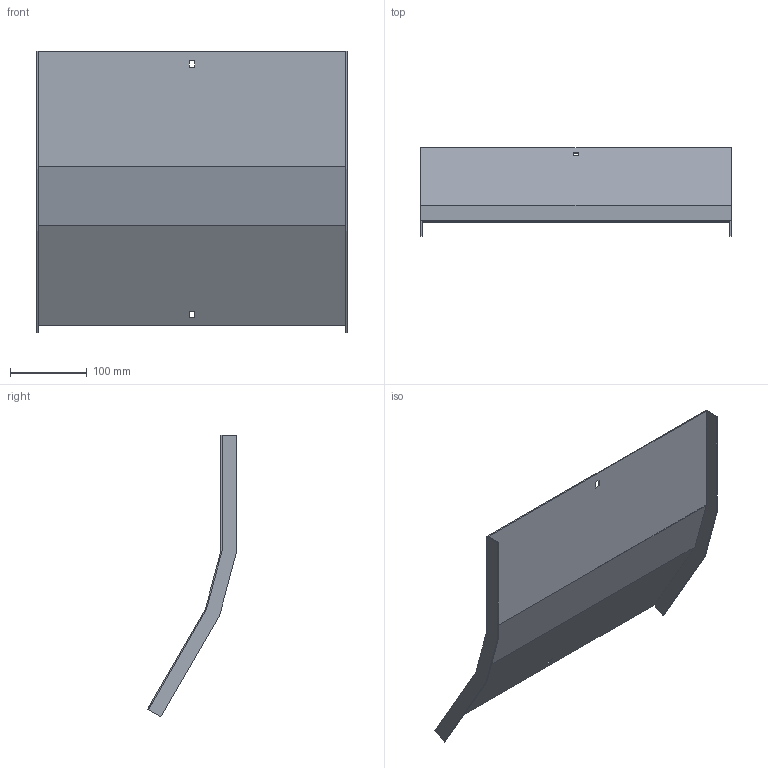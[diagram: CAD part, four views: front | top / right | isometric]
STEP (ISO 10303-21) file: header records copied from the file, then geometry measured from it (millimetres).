
FILE_DESCRIPTION (( 'STEP AP214' ), '1' );
FILE_NAME ('A2X32N3R400X.step', '2025-03-20T09:38:55', ( '' ), ( '' ), 'SwSTEP 2.0', 'SolidWorks 2023', '' );
FILE_SCHEMA (( 'AUTOMOTIVE_DESIGN' ));
Length unit declared in the file: millimetre
Products named in the file (1): A2X32N3R400X
Bounding box: 403 x 115.32 x 365.74 mm (x, y, z)
Volume: 250187.4 mm3; surface area: 336162.2 mm2
Topology: 1 solids, 1 shells, 26 faces, 72 edges, 48 vertices
Faces by surface type: plane 26
Entity records: 847 total; most frequent: CARTESIAN_POINT 147, ORIENTED_EDGE 144, DIRECTION 126, LINE 72, VECTOR 72, EDGE_CURVE 72, VERTEX_POINT 48, EDGE_LOOP 30
